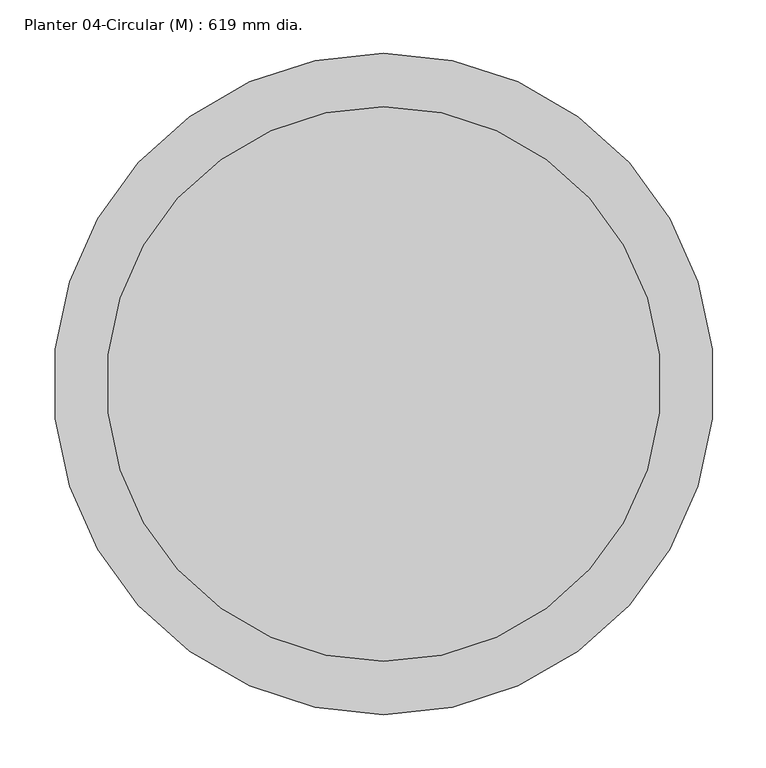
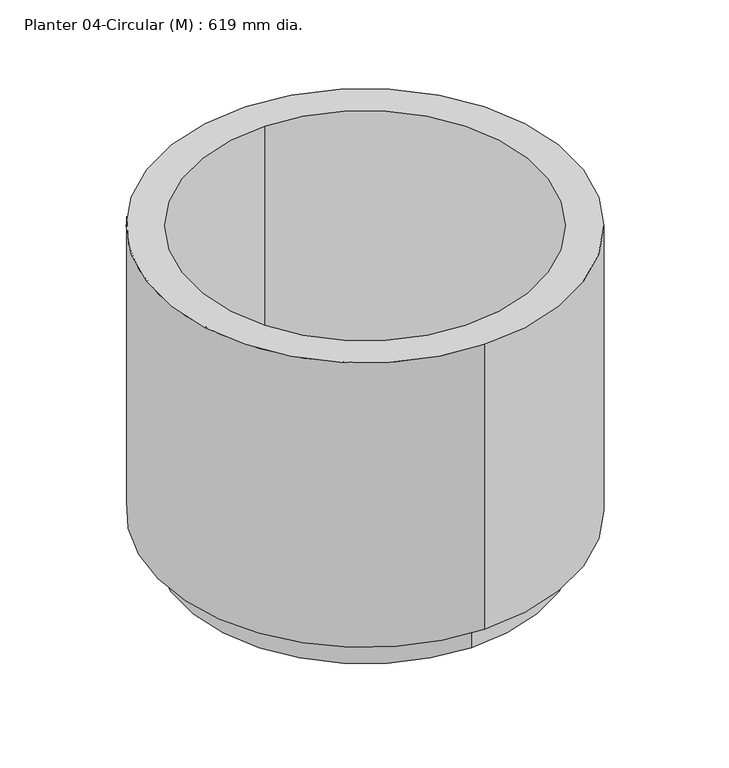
"""IFC4 building model written with IfcOpenShell, lengths in millimetres: geographic element geometry, Planter 04-Circular (M) : 619 mm dia.."""

import ifcopenshell
import ifcopenshell.guid

model = None  # the IFC model being written
_history = None  # IfcOwnerHistory: only IFC2X3 demands one
_inside = {}  # id of a spatial element -> (the spatial element, [elements in it])
_under = {}  # id of a project, library or spatial element -> (it, [spatial elements below it])
_declared = {}  # id of a project -> (the project, [libraries it declares])
_typed = {}  # id of a type object -> (the type object, [elements of that type])
_made_of = {}  # id of a material, layer set ... -> (it, [elements and type objects made of it])


def new_model(schema):
    """Start an empty IFC model of exactly this schema.

    Asked for "IFC4X3", IfcOpenShell would pick the latest addendum, in which some entities
    have other attributes; the version numbers below select the first issue.
    IFC2X3 requires an IfcOwnerHistory on every rooted entity: one is made here for all.
    """
    global model, _history
    if schema == "IFC4X3":
        model = ifcopenshell.file(schema_version=(4, 3, 0, 0))
    else:
        model = ifcopenshell.file(schema=schema)
    _inside.clear()
    _under.clear()
    _declared.clear()
    _typed.clear()
    _made_of.clear()
    _history = None
    if model.schema == "IFC2X3":
        org = make("IfcOrganization", Name="unknown")
        user = make(
            "IfcPersonAndOrganization",
            ThePerson=make("IfcPerson", FamilyName="unknown"),
            TheOrganization=org,
        )
        app = make(
            "IfcApplication",
            ApplicationDeveloper=org,
            Version="unknown",
            ApplicationFullName="unknown",
            ApplicationIdentifier="unknown",
        )
        _history = make(
            "IfcOwnerHistory",
            OwningUser=user,
            OwningApplication=app,
            ChangeAction="ADDED",
            CreationDate=0,
        )
    return model


def make(cls, **values):
    """One entity of the class cls with the attributes given. An attribute that is None is left unset."""
    return model.create_entity(
        cls, **{name: value for name, value in values.items() if value is not None}
    )


def rooted(cls, **values):
    """An entity with a GlobalId (a new one), such as an element, a storey or a relation."""
    return make(cls, GlobalId=ifcopenshell.guid.new(), OwnerHistory=_history, **values)


def si_unit(unit_type, name, prefix=None):
    """IfcSIUnit, for example si_unit("LENGTHUNIT", "METRE", prefix="MILLI")."""
    return make("IfcSIUnit", UnitType=unit_type, Prefix=prefix, Name=name)


def assignment(units):
    """IfcUnitAssignment: the units of a project."""
    return None if units is None else make("IfcUnitAssignment", Units=units)


def point(xyz):
    """IfcCartesianPoint."""
    return None if xyz is None else make("IfcCartesianPoint", Coordinates=xyz)


def direction(xyz):
    """IfcDirection."""
    return None if xyz is None else make("IfcDirection", DirectionRatios=xyz)


def frame(location, z_axis=None, x_axis=None):
    """IfcAxis2Placement3D, a coordinate frame: its origin and axes. An axis left out is left unset."""
    return make(
        "IfcAxis2Placement3D",
        Location=point(location),
        Axis=direction(z_axis),
        RefDirection=direction(x_axis),
    )


def frame_2d(location, x_axis=None):
    """IfcAxis2Placement2D, a coordinate frame in the plane: its origin and x axis."""
    return make(
        "IfcAxis2Placement2D", Location=point(location), RefDirection=direction(x_axis)
    )


def origin():
    """The frame at (0, 0, 0) with its axes left unset."""
    return frame((0.0, 0.0, 0.0))


def origin_with_axes():
    """The frame at (0, 0, 0) with the z axis (0, 0, 1) and the x axis (1, 0, 0) written out."""
    return frame((0.0, 0.0, 0.0), z_axis=(0.0, 0.0, 1.0), x_axis=(1.0, 0.0, 0.0))


def origin_2d():
    """The frame at (0, 0) in the plane with its x axis left unset."""
    return frame_2d((0.0, 0.0))


def place(relative_to, where):
    """IfcLocalPlacement: puts the frame where relative to a parent placement (None: the world)."""
    return make(
        "IfcLocalPlacement", PlacementRelTo=relative_to, RelativePlacement=where
    )


def context(
    kind, dimensions, precision=None, world=None, true_north=None, identifier=None
):
    """IfcGeometricRepresentationContext, for example the 3D "Model" context."""
    return make(
        "IfcGeometricRepresentationContext",
        ContextIdentifier=identifier,
        ContextType=kind,
        CoordinateSpaceDimension=dimensions,
        Precision=precision,
        WorldCoordinateSystem=world,
        TrueNorth=true_north,
    )


def project(units=None, contexts=None):
    """IfcProject with its units and contexts."""
    return rooted(
        "IfcProject",
        Name="project",
        RepresentationContexts=contexts,
        UnitsInContext=assignment(units),
    )


def spatial(cls, under=None, at=None, **own):
    """A site, building, storey or space (cls), placed at a placement, below another one or the project."""
    s = rooted(cls, ObjectPlacement=at, **own)
    if under is not None:
        _under.setdefault(under.id(), (under, []))[1].append(s)
    return s


def circle_curve(where, radius):
    """IfcCircle in the frame where."""
    return make("IfcCircle", Position=where, Radius=radius)


def trimmed(basis, trim1, trim2, sense, master):
    """IfcTrimmedCurve: the piece of a basis curve between two trims."""
    return make(
        "IfcTrimmedCurve",
        BasisCurve=basis,
        Trim1=trim1,
        Trim2=trim2,
        SenseAgreement=sense,
        MasterRepresentation=master,
    )


def segment(curve, same_sense, transition):
    """IfcCompositeCurveSegment."""
    return make(
        "IfcCompositeCurveSegment",
        Transition=transition,
        SameSense=same_sense,
        ParentCurve=curve,
    )


def composite_curve(segments, self_intersect=None):
    """IfcCompositeCurve: segments joined end to end."""
    return make("IfcCompositeCurve", Segments=segments, SelfIntersect=self_intersect)


def outline(outer, holes=None, kind="AREA"):
    """IfcArbitraryClosedProfileDef: a profile drawn as a closed curve; with holes, ...WithVoids."""
    if holes is None:
        return make("IfcArbitraryClosedProfileDef", ProfileType=kind, OuterCurve=outer)
    return make(
        "IfcArbitraryProfileDefWithVoids",
        ProfileType=kind,
        OuterCurve=outer,
        InnerCurves=holes,
    )


def extrude(swept, where, along, depth):
    """IfcExtrudedAreaSolid: the profile swept, set in the frame where, extruded along a direction by depth."""
    return make(
        "IfcExtrudedAreaSolid",
        SweptArea=swept,
        Position=where,
        ExtrudedDirection=direction(along),
        Depth=depth,
    )


def shape(context_of_items, identifier, shape_type, items):
    """IfcShapeRepresentation: the items that make up one representation, for example the "Body"."""
    return make(
        "IfcShapeRepresentation",
        ContextOfItems=context_of_items,
        RepresentationIdentifier=identifier,
        RepresentationType=shape_type,
        Items=items,
    )


def source(mapping_origin, context_of_items, identifier, shape_type, items):
    """IfcRepresentationMap: a shape defined once, which mapped items show again and again."""
    return make(
        "IfcRepresentationMap",
        MappingOrigin=mapping_origin,
        MappedRepresentation=shape(context_of_items, identifier, shape_type, items),
    )


def transform(
    local_origin,
    x_axis=None,
    y_axis=None,
    z_axis=None,
    scale=None,
    scale2=None,
    scale3=None,
    uniform=True,
):
    """IfcCartesianTransformationOperator3D, or its non-uniform kind. x_axis, y_axis, z_axis: its Axis1, 2, 3."""
    if uniform:
        return make(
            "IfcCartesianTransformationOperator3D",
            Axis1=direction(x_axis),
            Axis2=direction(y_axis),
            LocalOrigin=point(local_origin),
            Scale=scale,
            Axis3=direction(z_axis),
        )
    return make(
        "IfcCartesianTransformationOperator3DnonUniform",
        Axis1=direction(x_axis),
        Axis2=direction(y_axis),
        LocalOrigin=point(local_origin),
        Scale=scale,
        Axis3=direction(z_axis),
        Scale2=scale2,
        Scale3=scale3,
    )


def mapped(mapping_source, mapping_target):
    """IfcMappedItem: shows the shape of a source again, moved by a transform."""
    return make(
        "IfcMappedItem", MappingSource=mapping_source, MappingTarget=mapping_target
    )


def made_of(thing, what):
    """Note that an element or type object is made of a material, layer set ...; save() writes the relation."""
    if what is not None:
        _made_of.setdefault(what.id(), (what, []))[1].append(thing)
    return thing


def element(
    cls,
    number,
    at=None,
    inside=None,
    cuts=None,
    type_object=None,
    material=None,
    context=None,
    identifier="Body",
    shape_type=None,
    held_by="IfcProductDefinitionShape",
    body=None,
    shapes=None,
    **own,
):
    """One element of the class cls, such as IfcWall. Its Tag is "e" and its number.

    at: its placement. inside: the storey or other place that contains it. cuts: it is an
    opening in that element (IfcRelVoidsElement). A single representation is given by context,
    identifier, shape_type and body (its items); several are given by shapes. held_by: the class
    of the entity that holds the representations. save() writes the other relations.
    """
    e = rooted(cls, Tag="e%d" % number, ObjectPlacement=at, **own)
    if body is not None:
        shapes = [shape(context, identifier, shape_type, body)]
    if shapes is not None:
        e.Representation = make(held_by, Representations=shapes)
    if inside is not None:
        _inside.setdefault(inside.id(), (inside, []))[1].append(e)
    if cuts is not None:
        rooted(
            "IfcRelVoidsElement", RelatingBuildingElement=cuts, RelatedOpeningElement=e
        )
    if type_object is not None:
        _typed.setdefault(type_object.id(), (type_object, []))[1].append(e)
    return made_of(e, material)


def aggregate(whole, parts):
    """IfcRelAggregates: a whole, such as a stair, and the parts it consists of."""
    return rooted("IfcRelAggregates", RelatingObject=whole, RelatedObjects=parts)


def save(model, path):
    """Write the relations noted so far, then the file.

    IfcRelAggregates (storeys below a building ...), IfcRelContainedInSpatialStructure (elements
    in a storey), IfcRelDefinesByType, IfcRelAssociatesMaterial and IfcRelDeclares: one each for
    every whole, place, type object, material and project.
    """
    for whole, parts in _under.values():
        aggregate(whole, parts)
    for where, things in _inside.values():
        rooted(
            "IfcRelContainedInSpatialStructure",
            RelatedElements=things,
            RelatingStructure=where,
        )
    for kind, things in _typed.values():
        rooted("IfcRelDefinesByType", RelatedObjects=things, RelatingType=kind)
    for what, things in _made_of.values():
        rooted("IfcRelAssociatesMaterial", RelatedObjects=things, RelatingMaterial=what)
    for by, libraries in _declared.values():
        rooted("IfcRelDeclares", RelatingContext=by, RelatedDefinitions=libraries)
    model.write(path)


def planter_04_circular_m_619_mm_dia_eed0175d(model_context):
    return source(origin(), model_context, "Body", "SweptSolid", [
        extrude(outline(composite_curve([segment(trimmed(circle_curve(origin_2d(), 275.0), [point((0.0, 275.0))], [point((0.0, -275.0))], False, "CARTESIAN"), True, "CONTINUOUS"), segment(trimmed(circle_curve(origin_2d(), 275.0), [point((0.0, -275.0))], [point((0.0, 275.0))], False, "CARTESIAN"), True, "CONTINUOUS")], self_intersect=False)), origin_with_axes(), (0.0, 0.0, 1.0), 50.0),
        extrude(outline(composite_curve([segment(trimmed(circle_curve(origin_2d(), 309.5821669), [point((0.0, 309.5821669))], [point((0.0, -309.5821669))], False, "CARTESIAN"), True, "CONTINUOUS"), segment(trimmed(circle_curve(origin_2d(), 309.5821669), [point((0.0, -309.5821669))], [point((0.0, 309.5821669))], False, "CARTESIAN"), True, "CONTINUOUS")], self_intersect=False), holes=[composite_curve([segment(trimmed(circle_curve(origin_2d(), 259.5821669), [point((0.0, 259.5821669))], [point((0.0, -259.5821669))], True, "CARTESIAN"), True, "CONTINUOUS"), segment(trimmed(circle_curve(origin_2d(), 259.5821669), [point((0.0, -259.5821669))], [point((0.0, 259.5821669))], True, "CARTESIAN"), True, "CONTINUOUS")], self_intersect=False)]), frame((0.0, 0.0, 50.0), z_axis=(0.0, 0.0, 1.0), x_axis=(1.0, 0.0, 0.0)), (0.0, 0.0, 1.0), 450.0),
    ])


if __name__ == "__main__":
    model = new_model("IFC4")
    model_context = context("Model", 3, world=origin())
    ifc_project = project(units=[si_unit("LENGTHUNIT", "METRE", prefix="MILLI")], contexts=[model_context])
    site = spatial("IfcSite", under=ifc_project)
    building = spatial("IfcBuilding", under=site)
    placement = place(None, origin())
    planter_04_circular_m_619_mm_dia_shape = planter_04_circular_m_619_mm_dia_eed0175d(model_context)
    element("IfcGeographicElement", 1, ObjectType="Planter 04-Circular (M) : 619 mm dia.", at=placement, inside=building, context=model_context, shape_type="MappedRepresentation", body=[
        mapped(planter_04_circular_m_619_mm_dia_shape, transform((0.0, 0.0, 0.0), x_axis=(1.0, 0.0, 0.0), y_axis=(0.0, 1.0, 0.0), z_axis=(0.0, 0.0, 1.0))),
    ])
    save(model, "model.ifc")
